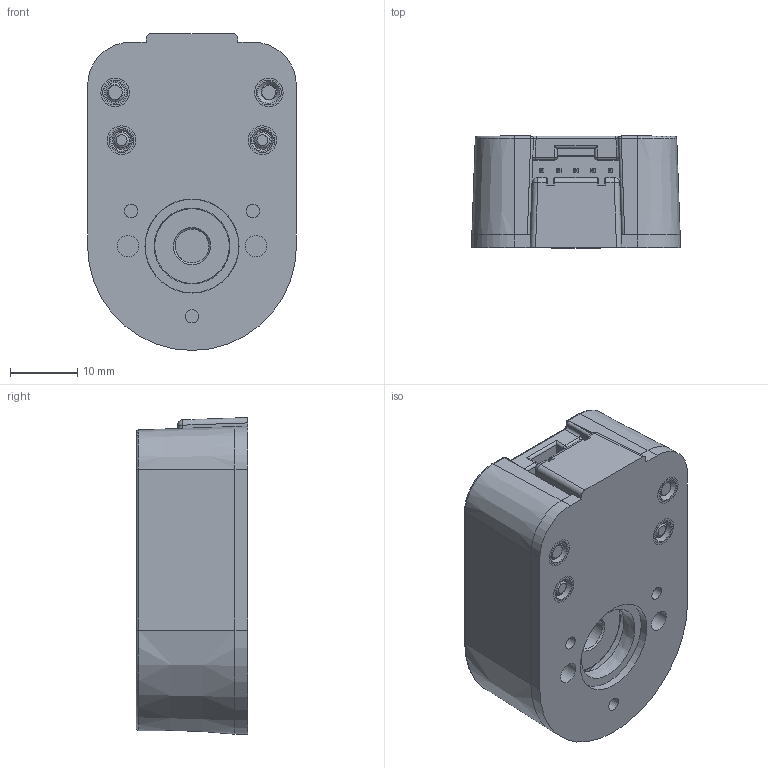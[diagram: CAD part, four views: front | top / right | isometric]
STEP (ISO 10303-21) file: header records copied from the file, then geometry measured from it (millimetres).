
FILE_DESCRIPTION(/* description */ ('STEP AP214'),/* implementation_level */ '2;1');
FILE_NAME(/* name */ 'C:\Users\raffaele\Downloads\Projects\E&D\ipt-to-step-conversion\E5.stp',/* time_stamp */ '2021-02-10T15:39:25+01:00',/* author */ (''),/* organization */ (''),/* preprocessor_version */ 'ST-DEVELOPER v18',/* originating_system */ 'Autodesk Inventor 2020',/* authorisation */ '');
FILE_SCHEMA (('AUTOMOTIVE_DESIGN { 1 0 10303 214 3 1 1 }'));
Products named in the file (1): E5
Bounding box: 31.05 x 16.59 x 47.14 mm (x, y, z)
Volume: 13549.8 mm3; surface area: 14694.4 mm2
Topology: 16 solids, 18 shells, 1576 faces, 4244 edges, 2842 vertices
Faces by surface type: plane 739, cylinder 448, cone 266, bspline 79, torus 30, sphere 14
Full cylindrical faces by diameter (mm): 1.981 x3, 2.261 x4, 2.375 x1, 2.413 x2, 2.431 x4, 2.667 x42, 2.769 x2, 2.845 x49, 3.175 x2, 3.683 x4, 4.064 x4, 4.763 x8, 4.953 x2, 5.004 x1, 5.563 x2, 9.525 x2, 9.576 x1, 12.37 x1, 12.7 x1, 12.751 x1, 13.208 x1, 25.4 x1
Entity records: 55529 total; most frequent: CARTESIAN_POINT 13026, DIRECTION 8783, ORIENTED_EDGE 8464, EDGE_CURVE 4232, AXIS2_PLACEMENT_3D 3244, VERTEX_POINT 2842, LINE 2295, VECTOR 2295
